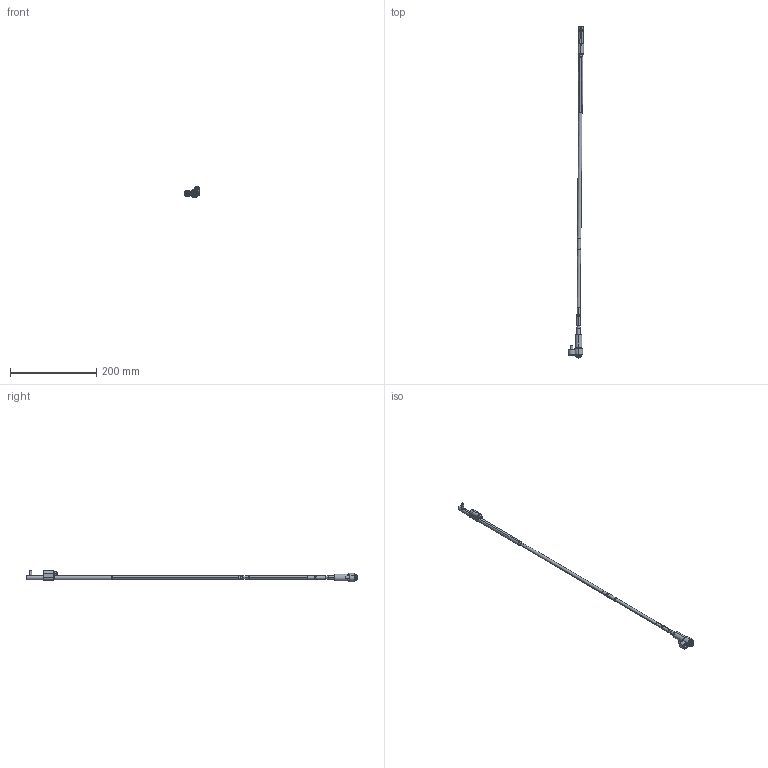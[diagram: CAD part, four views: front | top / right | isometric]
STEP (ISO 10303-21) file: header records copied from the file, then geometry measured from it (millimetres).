
FILE_DESCRIPTION (( 'STEP AP214' ), '1' );
FILE_NAME ('WL080125-EJE 0,5°.STEP', '2021-03-19T15:28:29', ( '' ), ( '' ), 'SwSTEP 2.0', 'SolidWorks 2019', '' );
FILE_SCHEMA (( 'AUTOMOTIVE_DESIGN' ));
Length unit declared in the file: millimetre
Products named in the file (17): 1DIN912616_DIN 912 M6 x 16 --- 16C; Web-WL08-A2; WL080100-D; WL080100-E; WL080100-B_WL0800FF; 9DR2206-TOR; WL080125-EJE 0,5°; Web-WP08-1; Web-WL08XX-A7_ON-WL080125-0,5; Web-WL08-A3; Web-WL08-F01; 1DIN912545_DIN 912 M5 x 50 --- 50C; Web-WL08-A1; WL080100-B1_WL0800FF-1; Web-WL08-F00.SLDPRT; 3IMAN4X2-150_con sello; WL080100-C
Assembly tree (16 placements, depth 3):
  WL080125-EJE 0,5°
    Web-WP08-1
    Web-WL08XX-A7_ON-WL080125-0,5
    Web-WL08-A3
    Web-WL08-A2
    Web-WL08-A1
    WL080100-D
    WL080100-C
    WL080100-B_WL0800FF
      WL080100-B1_WL0800FF-1
      3IMAN4X2-150_con sello
    WL080100-E
    9DR2206-TOR
    Web-WL08-F00.SLDPRT
      Web-WL08-F01
      1DIN912545_DIN 912 M5 x 50 --- 50C
      1DIN912616_DIN 912 M6 x 16 --- 16C
Bounding box: 35.76 x 772.01 x 26.9 mm (x, y, z)
Volume: 58701.5 mm3; surface area: 34415.9 mm2
Topology: 15 solids, 15 shells, 424 faces, 888 edges, 516 vertices
Faces by surface type: plane 132, cylinder 128, cone 116, torus 48
Entity records: 13492 total; most frequent: DIRECTION 2218, CARTESIAN_POINT 2045, ORIENTED_EDGE 1756, AXIS2_PLACEMENT_3D 921, EDGE_CURVE 878, VERTEX_POINT 516, CIRCLE 476, EDGE_LOOP 468
